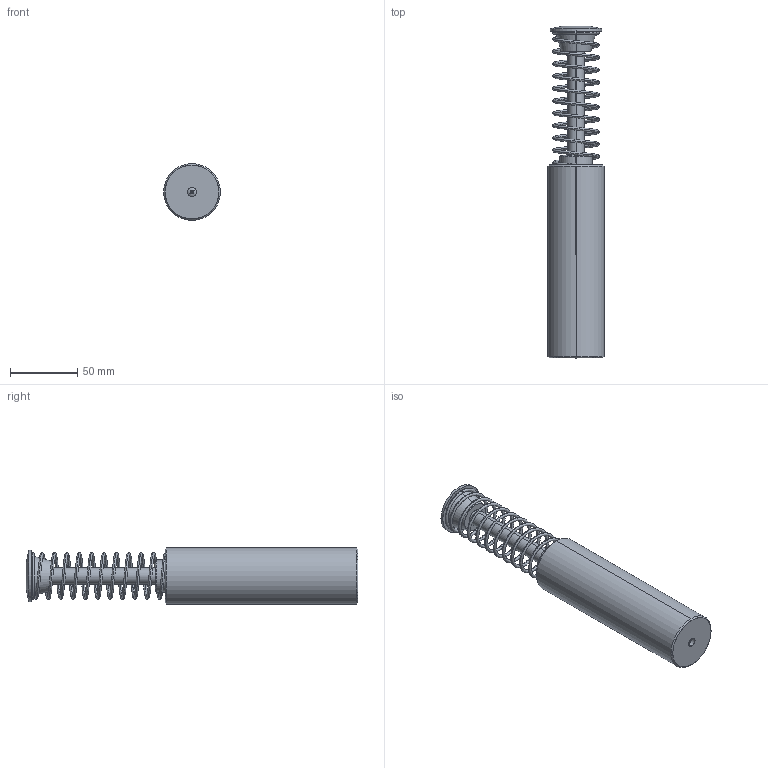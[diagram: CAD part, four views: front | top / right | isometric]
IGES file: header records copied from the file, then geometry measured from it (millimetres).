
Start section: SolidWorks IGES file using analytic representation for surfaces
Bounding box: 42 x 246 x 42 mm (x, y, z)
Surface area: 41897.8 mm2 (no closed solid volume)
Topology: 0 solids, 0 shells, 91 faces, 1425 edges, 1425 vertices
Faces by surface type: revolution 56, bspline 35
